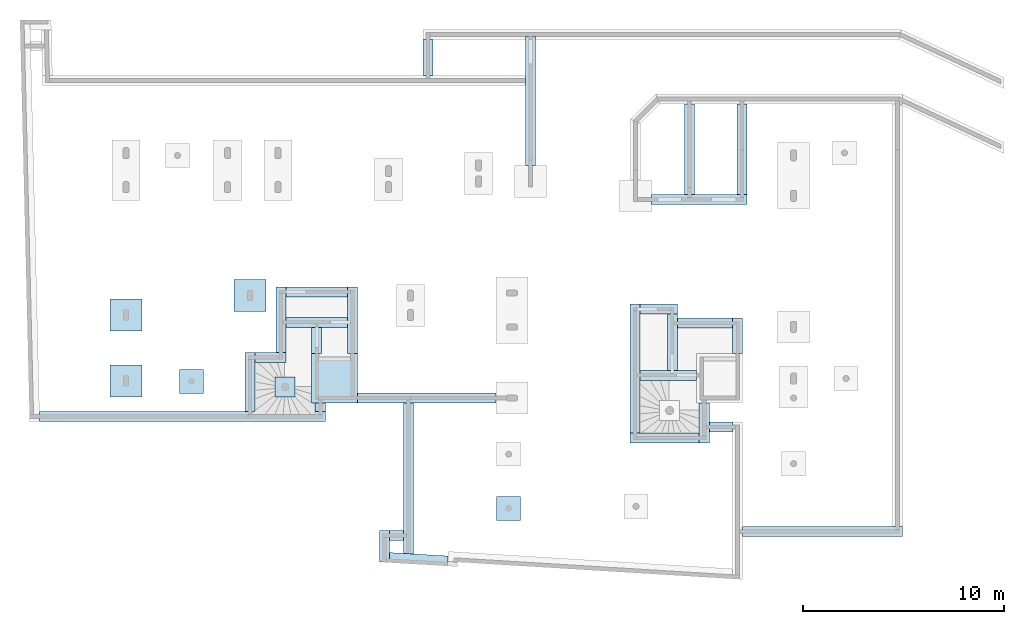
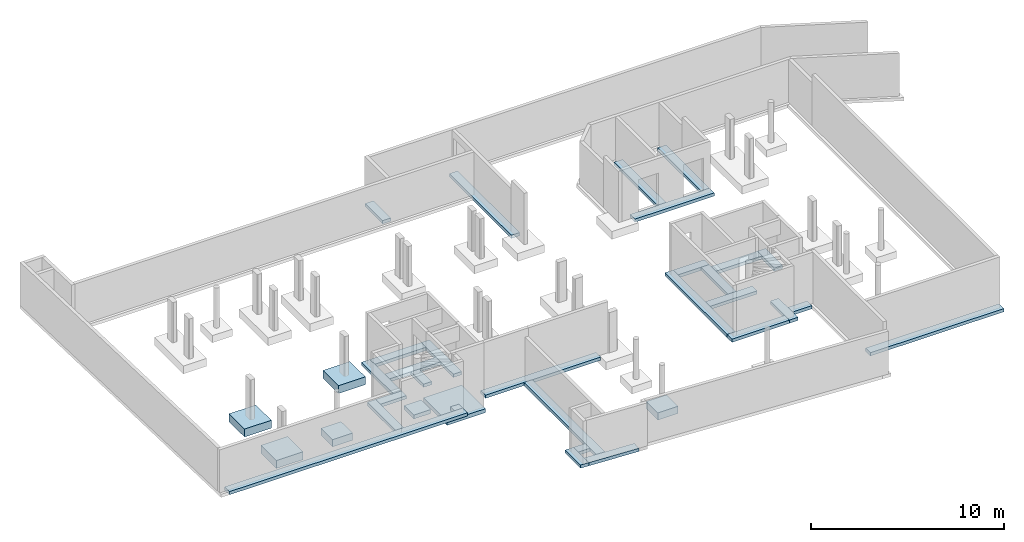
# One storey, part 1 of 6: 36 footings.
"""IFC2X3 building model written with IfcOpenShell, lengths in millimetres."""

from ifc_helpers import new_model, entity, si_unit, converted_unit, frame, frame_2d, origin, origin_with_axes, place, context, subcontext, project, spatial, rectangle, extrude, faceted_brep, material, element, save


model = new_model("IFC2X3")

# Units and contexts
model_context = context("Model", 3, precision=1e-05, world=origin())
body_context = subcontext(model_context, "Body", "Model", "MODEL_VIEW")
ifc_project = project(units=[si_unit("LENGTHUNIT", "METRE", prefix="MILLI"), converted_unit("PLANEANGLEUNIT", "DEGREE", entity("IfcPlaneAngleMeasure", 0.0174532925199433), si_unit("PLANEANGLEUNIT", "RADIAN"), dimensions=[0, 0, 0, 0, 0, 0, 0]), si_unit("AREAUNIT", "SQUARE_METRE"), si_unit("VOLUMEUNIT", "CUBIC_METRE")], contexts=[model_context])

# Site, building, storey
site_placement = place(None, origin())
site = spatial("IfcSite", under=ifc_project, at=site_placement, Name="Propriété", CompositionType="ELEMENT")
building_placement = place(site_placement, origin_with_axes())
building = spatial("IfcBuilding", under=site, at=building_placement, Name="Bâtiment", CompositionType="ELEMENT")
storey_placement = place(building_placement, frame((0.0, 0.0, -3300.0), z_axis=(0.0, 0.0, 1.0), x_axis=(1.0, 0.0, 0.0)))
storey = spatial("IfcBuildingStorey", under=building, at=storey_placement, Name="Sous-sol", CompositionType="ELEMENT", Elevation=-3300.0)

# Footings
ifc_material_1 = material(Name="<Unnamed Material>")
footing_1_placement = place(storey_placement, frame((-169.4222435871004, 4724.752767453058, -500.0100000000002), z_axis=(0.0, 0.0, 1.0), x_axis=(1.0, 0.0, 0.0)))
element("IfcFooting", 1, at=footing_1_placement, inside=storey, material=ifc_material_1, Name="<Unnamed Element>", PredefinedType="NOTDEFINED", context=body_context, shape_type="Brep", body=[
    faceted_brep([(0.009999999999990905, 1600.01, 0.01000000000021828), (0.009999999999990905, 0.01000000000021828, 0.01000000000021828), (1600.01, 0.01000000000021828, 0.01000000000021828), (1600.01, 1600.01, 0.01000000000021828), (0.009999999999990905, 0.01000000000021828, 500.0100000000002), (0.009999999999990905, 1600.01, 500.0100000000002), (1600.01, 1600.01, 500.0100000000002), (1600.01, 0.01000000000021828, 500.0100000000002), (0.009999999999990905, 0.01000000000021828, 0.01000000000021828), (0.009999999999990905, 1600.01, 0.01000000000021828), (0.009999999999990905, 1600.01, 500.0100000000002), (0.009999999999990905, 0.01000000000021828, 500.0100000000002), (1600.01, 0.01000000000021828, 0.01000000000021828), (0.009999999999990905, 0.01000000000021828, 0.01000000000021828), (0.009999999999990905, 0.01000000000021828, 500.0100000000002), (1600.01, 0.01000000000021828, 500.0100000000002), (1600.01, 1600.01, 0.01000000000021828), (1600.01, 0.01000000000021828, 0.01000000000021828), (1600.01, 0.01000000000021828, 500.0100000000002), (1600.01, 1600.01, 500.0100000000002), (0.009999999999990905, 1600.01, 0.01000000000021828), (1600.01, 1600.01, 0.01000000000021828), (1600.01, 1600.01, 500.0100000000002), (0.009999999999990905, 1600.01, 500.0100000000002)], [[[0, 1, 2, 3]], [[4, 5, 6, 7]], [[8, 9, 10, 11]], [[12, 13, 14, 15]], [[16, 17, 18, 19]], [[20, 21, 22, 23]]], orient=[[False], [False], [False], [False], [False], [False]]),
])
ifc_material_2 = material(Name="<Unnamed Material>")
footing_2_placement = place(storey_placement, frame((-169.4222435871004, 1439.419874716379, -500.0100000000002), z_axis=(0.0, 0.0, 1.0), x_axis=(1.0, 0.0, 0.0)))
element("IfcFooting", 2, at=footing_2_placement, inside=storey, material=ifc_material_2, Name="<Unnamed Element>", PredefinedType="NOTDEFINED", context=body_context, shape_type="Brep", body=[
    faceted_brep([(0.009999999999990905, 1600.01, 0.01000000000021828), (0.009999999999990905, 0.009999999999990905, 0.01000000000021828), (1600.01, 0.009999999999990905, 0.01000000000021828), (1600.01, 1600.01, 0.01000000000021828), (0.009999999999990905, 0.009999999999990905, 500.0100000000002), (0.009999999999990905, 1600.01, 500.0100000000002), (1600.01, 1600.01, 500.0100000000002), (1600.01, 0.009999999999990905, 500.0100000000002), (0.009999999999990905, 0.009999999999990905, 0.01000000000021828), (0.009999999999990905, 1600.01, 0.01000000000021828), (0.009999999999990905, 1600.01, 500.0100000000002), (0.009999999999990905, 0.009999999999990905, 500.0100000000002), (1600.01, 0.009999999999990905, 0.01000000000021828), (0.009999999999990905, 0.009999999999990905, 0.01000000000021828), (0.009999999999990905, 0.009999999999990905, 500.0100000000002), (1600.01, 0.009999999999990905, 500.0100000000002), (1600.01, 1600.01, 0.01000000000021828), (1600.01, 0.009999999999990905, 0.01000000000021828), (1600.01, 0.009999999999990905, 500.0100000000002), (1600.01, 1600.01, 500.0100000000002), (0.009999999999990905, 1600.01, 0.01000000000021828), (1600.01, 1600.01, 0.01000000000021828), (1600.01, 1600.01, 500.0100000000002), (0.009999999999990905, 1600.01, 500.0100000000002)], [[[0, 1, 2, 3]], [[4, 5, 6, 7]], [[8, 9, 10, 11]], [[12, 13, 14, 15]], [[16, 17, 18, 19]], [[20, 21, 22, 23]]], orient=[[False], [False], [False], [False], [False], [False]]),
])
ifc_material_3 = material(Name="<Unnamed Material>")
footing_3_placement = place(storey_placement, frame((6010.577756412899, 5687.13711771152, -500.0100000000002), z_axis=(0.0, 0.0, 1.0), x_axis=(1.0, 0.0, 0.0)))
element("IfcFooting", 3, at=footing_3_placement, inside=storey, material=ifc_material_3, Name="<Unnamed Element>", PredefinedType="NOTDEFINED", context=body_context, shape_type="Brep", body=[
    faceted_brep([(0.01000000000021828, 1600.01, 0.01000000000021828), (0.01000000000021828, 0.01000000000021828, 0.01000000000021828), (1600.01, 0.01000000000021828, 0.01000000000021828), (1600.01, 1600.01, 0.01000000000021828), (0.01000000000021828, 0.01000000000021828, 500.0100000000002), (0.01000000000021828, 1600.01, 500.0100000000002), (1600.01, 1600.01, 500.0100000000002), (1600.01, 0.01000000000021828, 500.0100000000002), (0.01000000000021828, 0.01000000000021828, 0.01000000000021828), (0.01000000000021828, 1600.01, 0.01000000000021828), (0.01000000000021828, 1600.01, 500.0100000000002), (0.01000000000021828, 0.01000000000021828, 500.0100000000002), (1600.01, 0.01000000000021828, 0.01000000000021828), (0.01000000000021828, 0.01000000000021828, 0.01000000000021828), (0.01000000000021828, 0.01000000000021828, 500.0100000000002), (1600.01, 0.01000000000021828, 500.0100000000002), (1600.01, 1600.01, 0.01000000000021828), (1600.01, 0.01000000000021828, 0.01000000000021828), (1600.01, 0.01000000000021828, 500.0100000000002), (1600.01, 1600.01, 500.0100000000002), (0.01000000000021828, 1600.01, 0.01000000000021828), (1600.01, 1600.01, 0.01000000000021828), (1600.01, 1600.01, 500.0100000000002), (0.01000000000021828, 1600.01, 500.0100000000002)], [[[0, 1, 2, 3]], [[4, 5, 6, 7]], [[8, 9, 10, 11]], [[12, 13, 14, 15]], [[16, 17, 18, 19]], [[20, 21, 22, 23]]], orient=[[False], [False], [False], [False], [False], [False]]),
])
ifc_material_4 = material(Name="<Unnamed Material>")
footing_4_placement = place(storey_placement, frame((19100.57775641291, -4715.58012528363, -450.0100000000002), z_axis=(0.0, 0.0, 1.0), x_axis=(1.0, 0.0, 0.0)))
element("IfcFooting", 4, at=footing_4_placement, inside=storey, material=ifc_material_4, Name="<Unnamed Element>", PredefinedType="NOTDEFINED", context=body_context, shape_type="Brep", body=[
    faceted_brep([(0.00999999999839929, 1200.01, 0.01000000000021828), (0.00999999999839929, 0.01000000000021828, 0.01000000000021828), (1200.009999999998, 0.01000000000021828, 0.01000000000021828), (1200.009999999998, 1200.01, 0.01000000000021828), (0.00999999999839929, 0.01000000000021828, 450.0100000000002), (0.00999999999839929, 1200.01, 450.0100000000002), (1200.009999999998, 1200.01, 450.0100000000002), (1200.009999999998, 0.01000000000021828, 450.0100000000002), (0.00999999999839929, 0.01000000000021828, 0.01000000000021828), (0.00999999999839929, 1200.01, 0.01000000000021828), (0.00999999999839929, 1200.01, 450.0100000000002), (0.00999999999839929, 0.01000000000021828, 450.0100000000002), (1200.009999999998, 0.01000000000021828, 0.01000000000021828), (0.00999999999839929, 0.01000000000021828, 0.01000000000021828), (0.00999999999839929, 0.01000000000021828, 450.0100000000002), (1200.009999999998, 0.01000000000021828, 450.0100000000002), (1200.009999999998, 1200.01, 0.01000000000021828), (1200.009999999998, 0.01000000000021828, 0.01000000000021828), (1200.009999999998, 0.01000000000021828, 450.0100000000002), (1200.009999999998, 1200.01, 450.0100000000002), (0.00999999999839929, 1200.01, 0.01000000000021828), (1200.009999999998, 1200.01, 0.01000000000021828), (1200.009999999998, 1200.01, 450.0100000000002), (0.00999999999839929, 1200.01, 450.0100000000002)], [[[0, 1, 2, 3]], [[4, 5, 6, 7]], [[8, 9, 10, 11]], [[12, 13, 14, 15]], [[16, 17, 18, 19]], [[20, 21, 22, 23]]], orient=[[False], [False], [False], [False], [False], [False]]),
])
ifc_material_5 = material(Name="<Unnamed Material>")
footing_5_placement = place(storey_placement, frame((3300.577756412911, 1614.419874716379, -450.0100000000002), z_axis=(0.0, 0.0, 1.0), x_axis=(1.0, 0.0, 0.0)))
element("IfcFooting", 5, at=footing_5_placement, inside=storey, material=ifc_material_5, Name="<Unnamed Element>", PredefinedType="NOTDEFINED", context=body_context, shape_type="Brep", body=[
    faceted_brep([(0.01000000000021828, 1200.01, 0.01000000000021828), (0.01000000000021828, 0.009999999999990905, 0.01000000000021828), (1200.01, 0.009999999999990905, 0.01000000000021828), (1200.01, 1200.01, 0.01000000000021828), (0.01000000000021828, 0.009999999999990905, 450.0100000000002), (0.01000000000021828, 1200.01, 450.0100000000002), (1200.01, 1200.01, 450.0100000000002), (1200.01, 0.009999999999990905, 450.0100000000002), (0.01000000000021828, 0.009999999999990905, 0.01000000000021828), (0.01000000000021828, 1200.01, 0.01000000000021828), (0.01000000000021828, 1200.01, 450.0100000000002), (0.01000000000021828, 0.009999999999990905, 450.0100000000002), (1200.01, 0.009999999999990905, 0.01000000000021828), (0.01000000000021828, 0.009999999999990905, 0.01000000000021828), (0.01000000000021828, 0.009999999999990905, 450.0100000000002), (1200.01, 0.009999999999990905, 450.0100000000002), (1200.01, 1200.01, 0.01000000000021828), (1200.01, 0.009999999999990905, 0.01000000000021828), (1200.01, 0.009999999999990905, 450.0100000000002), (1200.01, 1200.01, 450.0100000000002), (0.01000000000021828, 1200.01, 0.01000000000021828), (1200.01, 1200.01, 0.01000000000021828), (1200.01, 1200.01, 450.0100000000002), (0.01000000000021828, 1200.01, 450.0100000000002)], [[[0, 1, 2, 3]], [[4, 5, 6, 7]], [[8, 9, 10, 11]], [[12, 13, 14, 15]], [[16, 17, 18, 19]], [[20, 21, 22, 23]]], orient=[[False], [False], [False], [False], [False], [False]]),
])
ifc_material_6 = material(Name="<Unnamed Material>")
footing_6_placement = place(storey_placement, frame((8060.577756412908, 1438.278496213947, -250.0100000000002), z_axis=(0.0, 0.0, 1.0), x_axis=(1.0, 0.0, 0.0)))
element("IfcFooting", 6, at=footing_6_placement, inside=storey, material=ifc_material_6, Name="<Unnamed Element>", PredefinedType="NOTDEFINED", context=body_context, shape_type="Brep", body=[
    faceted_brep([(0.01000000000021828, 1000.01, 0.01000000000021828), (0.01000000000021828, 0.009999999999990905, 0.01000000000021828), (1000.01, 0.009999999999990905, 0.01000000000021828), (1000.01, 1000.01, 0.01000000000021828), (0.01000000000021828, 0.009999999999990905, 250.0100000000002), (0.01000000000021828, 1000.01, 250.0100000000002), (1000.01, 1000.01, 250.0100000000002), (1000.01, 0.009999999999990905, 250.0100000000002), (0.01000000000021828, 0.009999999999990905, 0.01000000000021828), (0.01000000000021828, 1000.01, 0.01000000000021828), (0.01000000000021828, 1000.01, 250.0100000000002), (0.01000000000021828, 0.009999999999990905, 250.0100000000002), (1000.01, 0.009999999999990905, 0.01000000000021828), (0.01000000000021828, 0.009999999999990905, 0.01000000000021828), (0.01000000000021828, 0.009999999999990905, 250.0100000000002), (1000.01, 0.009999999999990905, 250.0100000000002), (1000.01, 1000.01, 0.01000000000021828), (1000.01, 0.009999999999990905, 0.01000000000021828), (1000.01, 0.009999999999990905, 250.0100000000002), (1000.01, 1000.01, 250.0100000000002), (0.01000000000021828, 1000.01, 0.01000000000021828), (1000.01, 1000.01, 0.01000000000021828), (1000.01, 1000.01, 250.0100000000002), (0.01000000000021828, 1000.01, 250.0100000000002)], [[[0, 1, 2, 3]], [[4, 5, 6, 7]], [[8, 9, 10, 11]], [[12, 13, 14, 15]], [[16, 17, 18, 19]], [[20, 21, 22, 23]]], orient=[[False], [False], [False], [False], [False], [False]]),
])
ifc_material_7 = material(Name="<Unnamed Material>")
footing_7_placement = place(storey_placement, frame((12170.58775641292, 1134.429874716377, -200.0), z_axis=(0.0, 0.0, 1.0), x_axis=(1.0, 0.0, 0.0)))
element("IfcFooting", 7, at=footing_7_placement, inside=storey, material=ifc_material_7, Name="<Unnamed Element>", PredefinedType="STRIP_FOOTING", context=body_context, shape_type="SweptSolid", body=[
    extrude(rectangle(XDim=200.0, YDim=500.0, at=frame_2d((100.0, -250.0), x_axis=(1.0, 0.0))), frame((0.0, 0.0, 0.0), z_axis=(1.0, 0.0, 0.0), x_axis=(0.0, 0.0, 1.0)), (0.0, 0.0, 1.0), 6889.999999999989),
])
ifc_material_8 = material(Name="<Unnamed Material>")
footing_8_placement = place(storey_placement, frame((10570.58775641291, 724.4298747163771, -200.0), z_axis=(0.0, 0.0, 1.0), x_axis=(0.0, 0.9999999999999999, 0.0)))
element("IfcFooting", 8, at=footing_8_placement, inside=storey, material=ifc_material_8, Name="<Unnamed Element>", PredefinedType="STRIP_FOOTING", context=body_context, shape_type="SweptSolid", body=[
    extrude(rectangle(XDim=200.0, YDim=500.0, at=frame_2d((100.0, -250.0), x_axis=(1.0, 0.0))), frame((0.0, 0.0, 0.0), z_axis=(1.0, 0.0, 0.0), x_axis=(0.0, 0.0, 1.0)), (0.0, 0.0, 1.0), 409.9999999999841),
])
ifc_material_9 = material(Name="<Unnamed Material>")
footing_9_placement = place(storey_placement, frame((20550.58775641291, 19399.76597325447, -200.0), z_axis=(0.0, 0.0, 1.0), x_axis=(0.0, -1.0, 0.0)))
element("IfcFooting", 9, at=footing_9_placement, inside=storey, material=ifc_material_9, Name="<Unnamed Element>", PredefinedType="STRIP_FOOTING", context=body_context, shape_type="SweptSolid", body=[
    extrude(rectangle(XDim=200.0, YDim=500.0, at=frame_2d((100.0, -250.0), x_axis=(1.0, 0.0))), frame((0.0, 0.0, 0.0), z_axis=(1.0, 0.0, 0.0), x_axis=(0.0, 0.0, 1.0)), (0.0, 0.0, 1.0), 6425.126655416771),
])
ifc_material_10 = material(Name="<Unnamed Material>")
footing_10_placement = place(storey_placement, frame((15930.58775641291, 17449.63931783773, -200.0), z_axis=(0.0, 0.0, 1.0), x_axis=(0.0, 0.9999999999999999, 0.0)))
element("IfcFooting", 10, at=footing_10_placement, inside=storey, material=ifc_material_10, Name="<Unnamed Element>", PredefinedType="STRIP_FOOTING", context=body_context, shape_type="SweptSolid", body=[
    extrude(rectangle(XDim=200.0, YDim=500.0, at=frame_2d((100.0, -250.0), x_axis=(1.0, 0.0))), frame((0.0, 0.0, 0.0), z_axis=(1.0, 0.0, 0.0), x_axis=(0.0, 0.0, 1.0)), (0.0, 0.0, 1.0), 1800.000001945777),
])
ifc_material_11 = material(Name="<Unnamed Material>")
footing_11_placement = place(storey_placement, frame((29700.58775641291, -865.5701252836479, -200.0), z_axis=(0.0, 0.0, 1.0), x_axis=(0.0, 1.0, 0.0)))
element("IfcFooting", 11, at=footing_11_placement, inside=storey, material=ifc_material_11, Name="<Unnamed Element>", PredefinedType="STRIP_FOOTING", context=body_context, shape_type="SweptSolid", body=[
    extrude(rectangle(XDim=200.0, YDim=500.0, at=frame_2d((100.0, -250.0), x_axis=(1.0, 0.0))), frame((0.0, 0.0, 0.0), z_axis=(1.0, 0.0, 0.0), x_axis=(0.0, 0.0, 1.0)), (0.0, 0.0, 1.0), 1999.999999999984),
])
ifc_material_12 = material(Name="<Unnamed Material>")
footing_12_placement = place(storey_placement, frame((-3666.99870436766, 224.4298747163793, -200.0), z_axis=(0.0, 0.0, 1.0), x_axis=(1.0, -1.517146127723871e-16, 0.0)))
element("IfcFooting", 12, at=footing_12_placement, inside=storey, material=ifc_material_12, Name="<Unnamed Element>", PredefinedType="STRIP_FOOTING", context=body_context, shape_type="Brep", body=[
    faceted_brep([(-12.09316018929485, 500.0, 0.0), (0.0, 0.0, 0.0), (14237.58646078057, 0.0, 0.0), (14237.58646078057, 500.0, 0.0), (0.0, 0.0, 200.0), (-12.09316018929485, 500.0, 200.0), (14237.58646078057, 500.0, 200.0), (14237.58646078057, 0.0, 200.0), (0.0, 0.0, 0.0), (-12.09316018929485, 500.0, 0.0), (-12.09316018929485, 500.0, 200.0), (0.0, 0.0, 200.0), (14237.58646078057, 0.0, 0.0), (0.0, 0.0, 0.0), (0.0, 0.0, 200.0), (14237.58646078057, 0.0, 200.0), (14237.58646078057, 500.0, 0.0), (14237.58646078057, 0.0, 0.0), (14237.58646078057, 0.0, 200.0), (14237.58646078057, 500.0, 200.0), (-12.09316018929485, 500.0, 0.0), (14237.58646078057, 500.0, 0.0), (14237.58646078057, 500.0, 200.0), (-12.09316018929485, 500.0, 200.0)], [[[0, 1, 2, 3]], [[4, 5, 6, 7]], [[8, 9, 10, 11]], [[12, 13, 14, 15]], [[16, 17, 18, 19]], [[20, 21, 22, 23]]], orient=[[False], [False], [False], [False], [False], [False]]),
])
ifc_material_13 = material(Name="<Unnamed Material>")
footing_13_placement = place(storey_placement, frame((7050.58775641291, 724.4298747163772, -200.0), z_axis=(0.0, 0.0, 1.0), x_axis=(3.106497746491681e-15, 1.0, 0.0)))
element("IfcFooting", 13, at=footing_13_placement, inside=storey, material=ifc_material_13, Name="<Unnamed Element>", PredefinedType="STRIP_FOOTING", context=body_context, shape_type="SweptSolid", body=[
    extrude(rectangle(XDim=200.0, YDim=500.0, at=frame_2d((100.0, -250.0), x_axis=(1.0, 0.0))), frame((0.0, 0.0, 0.0), z_axis=(1.0, 0.0, 0.0), x_axis=(0.0, 0.0, 1.0)), (0.0, 0.0, 1.0), 2927.717242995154),
])
ifc_material_14 = material(Name="<Unnamed Material>")
footing_14_placement = place(storey_placement, frame((7050.587756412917, 3152.147117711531, -200.0), z_axis=(0.0, 0.0, 1.0), x_axis=(1.0, -2.933853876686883e-15, 0.0)))
element("IfcFooting", 14, at=footing_14_placement, inside=storey, material=ifc_material_14, Name="<Unnamed Element>", PredefinedType="STRIP_FOOTING", context=body_context, shape_type="SweptSolid", body=[
    extrude(rectangle(XDim=200.0, YDim=500.0, at=frame_2d((100.0, -250.0), x_axis=(1.0, 0.0))), frame((0.0, 0.0, 0.0), z_axis=(1.0, 0.0, 0.0), x_axis=(0.0, 0.0, 1.0)), (0.0, 0.0, 1.0), 1549.999999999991),
])
ifc_material_15 = material(Name="<Unnamed Material>")
footing_15_placement = place(storey_placement, frame((9880.577756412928, 1134.419874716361, -1100.01), z_axis=(0.0, 0.0, 1.0), x_axis=(1.0, 0.0, 0.0)))
element("IfcFooting", 15, at=footing_15_placement, inside=storey, material=ifc_material_15, Name="<Unnamed Element>", PredefinedType="NOTDEFINED", context=body_context, shape_type="Brep", body=[
    faceted_brep([(0.00999999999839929, 2464.451494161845, 0.01000000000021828), (0.00999999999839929, 0.009999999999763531, 0.01000000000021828), (2290.009999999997, 0.009999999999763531, 0.01000000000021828), (2290.009999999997, 2464.451494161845, 0.01000000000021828), (0.00999999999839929, 0.009999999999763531, 250.0100000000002), (0.00999999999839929, 2464.451494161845, 250.0100000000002), (2290.009999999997, 2464.451494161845, 250.0100000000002), (2290.009999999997, 0.009999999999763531, 250.0100000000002), (0.00999999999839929, 0.009999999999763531, 0.01000000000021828), (0.00999999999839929, 2464.451494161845, 0.01000000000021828), (0.00999999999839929, 2464.451494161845, 250.0100000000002), (0.00999999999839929, 0.009999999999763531, 250.0100000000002), (2290.009999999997, 0.009999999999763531, 0.01000000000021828), (0.00999999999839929, 0.009999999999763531, 0.01000000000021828), (0.00999999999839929, 0.009999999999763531, 250.0100000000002), (2290.009999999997, 0.009999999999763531, 250.0100000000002), (2290.009999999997, 2464.451494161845, 0.01000000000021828), (2290.009999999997, 0.009999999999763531, 0.01000000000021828), (2290.009999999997, 0.009999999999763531, 250.0100000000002), (2290.009999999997, 2464.451494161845, 250.0100000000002), (0.00999999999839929, 2464.451494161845, 0.01000000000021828), (2290.009999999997, 2464.451494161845, 0.01000000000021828), (2290.009999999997, 2464.451494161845, 250.0100000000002), (0.00999999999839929, 2464.451494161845, 250.0100000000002)], [[[0, 1, 2, 3]], [[4, 5, 6, 7]], [[8, 9, 10, 11]], [[12, 13, 14, 15]], [[16, 17, 18, 19]], [[20, 21, 22, 23]]], orient=[[False], [False], [False], [False], [False], [False]]),
])
ifc_material_16 = material(Name="<Unnamed Material>")
footing_16_placement = place(storey_placement, frame((11670.58775641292, 6922.14711771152, -200.0), z_axis=(0.0, 0.0, 1.0), x_axis=(-1.0, 0.0, 0.0)))
element("IfcFooting", 16, at=footing_16_placement, inside=storey, material=ifc_material_16, Name="<Unnamed Element>", PredefinedType="STRIP_FOOTING", context=body_context, shape_type="SweptSolid", body=[
    extrude(rectangle(XDim=200.0, YDim=500.0, at=frame_2d((100.0, -250.0), x_axis=(1.0, 0.0))), frame((0.0, 0.0, 0.0), z_axis=(1.0, 0.0, 0.0), x_axis=(0.0, 0.0, 1.0)), (0.0, 0.0, 1.0), 3070.000000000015),
])
ifc_material_17 = material(Name="<Unnamed Material>")
footing_17_placement = place(storey_placement, frame((10380.5877564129, 3598.871368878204, -200.0), z_axis=(0.0, 0.0, 1.0), x_axis=(5.582822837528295e-15, 1.0, 0.0)))
element("IfcFooting", 17, at=footing_17_placement, inside=storey, material=ifc_material_17, Name="<Unnamed Element>", PredefinedType="STRIP_FOOTING", context=body_context, shape_type="SweptSolid", body=[
    extrude(rectangle(XDim=200.0, YDim=500.0, at=frame_2d((100.0, -250.0), x_axis=(1.0, 0.0))), frame((0.0, 0.0, 0.0), z_axis=(1.0, 0.0, 0.0), x_axis=(0.0, 0.0, 1.0)), (0.0, 0.0, 1.0), 1303.275748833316),
])
ifc_material_18 = material(Name="<Unnamed Material>")
footing_18_placement = place(storey_placement, frame((8600.587756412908, 4902.14711771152, -200.0), z_axis=(0.0, 0.0, 1.0), x_axis=(1.0, 0.0, 0.0)))
element("IfcFooting", 18, at=footing_18_placement, inside=storey, material=ifc_material_18, Name="<Unnamed Element>", PredefinedType="STRIP_FOOTING", context=body_context, shape_type="SweptSolid", body=[
    extrude(rectangle(XDim=200.0, YDim=500.0, at=frame_2d((100.0, -250.0), x_axis=(1.0, 0.0))), frame((0.0, 0.0, 0.0), z_axis=(1.0, 0.0, 0.0), x_axis=(0.0, 0.0, 1.0)), (0.0, 0.0, 1.0), 3070.000000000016),
])
ifc_material_19 = material(Name="<Unnamed Material>")
footing_19_placement = place(storey_placement, frame((8600.587756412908, 3652.147117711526, -200.0), z_axis=(0.0, 0.0, 1.0), x_axis=(0.0, 0.9999999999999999, 0.0)))
element("IfcFooting", 19, at=footing_19_placement, inside=storey, material=ifc_material_19, Name="<Unnamed Element>", PredefinedType="STRIP_FOOTING", context=body_context, shape_type="SweptSolid", body=[
    extrude(rectangle(XDim=200.0, YDim=500.0, at=frame_2d((100.0, -250.0), x_axis=(1.0, 0.0))), frame((0.0, 0.0, 0.0), z_axis=(1.0, 0.0, 0.0), x_axis=(0.0, 0.0, 1.0)), (0.0, 0.0, 1.0), 3269.999999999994),
])
ifc_material_20 = material(Name="<Unnamed Material>")
footing_20_placement = place(storey_placement, frame((12170.58775641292, 3598.871368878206, -200.0), z_axis=(0.0, 0.0, 1.0), x_axis=(-5.473483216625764e-16, 1.0, 0.0)))
element("IfcFooting", 20, at=footing_20_placement, inside=storey, material=ifc_material_20, Name="<Unnamed Element>", PredefinedType="STRIP_FOOTING", context=body_context, shape_type="SweptSolid", body=[
    extrude(rectangle(XDim=200.0, YDim=499.9999999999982, at=frame_2d((100.0, -249.9999999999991), x_axis=(1.0, 0.0))), frame((0.0, 0.0, 0.0), z_axis=(1.0, 0.0, 0.0), x_axis=(0.0, 0.0, 1.0)), (0.0, 0.0, 1.0), 3323.275748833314),
])
ifc_material_21 = material(Name="<Unnamed Material>")
footing_21_placement = place(storey_placement, frame((31360.58775641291, 3598.871368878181, -200.0), z_axis=(0.0, 0.0, 1.0), x_axis=(0.0, 1.0, 0.0)))
element("IfcFooting", 21, at=footing_21_placement, inside=storey, material=ifc_material_21, Name="<Unnamed Element>", PredefinedType="STRIP_FOOTING", context=body_context, shape_type="SweptSolid", body=[
    extrude(rectangle(XDim=200.0, YDim=500.0, at=frame_2d((100.0, -250.0), x_axis=(1.0, 0.0))), frame((0.0, 0.0, 0.0), z_axis=(1.0, 0.0, 0.0), x_axis=(0.0, 0.0, 1.0)), (0.0, 0.0, 1.0), 1765.558505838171),
])
ifc_material_22 = material(Name="<Unnamed Material>")
footing_22_placement = place(storey_placement, frame((29700.58775641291, -315.5701252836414, -200.0), z_axis=(0.0, 0.0, 1.0), x_axis=(1.0, -1.334584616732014e-15, 0.0)))
element("IfcFooting", 22, at=footing_22_placement, inside=storey, material=ifc_material_22, Name="<Unnamed Element>", PredefinedType="STRIP_FOOTING", context=body_context, shape_type="SweptSolid", body=[
    extrude(rectangle(XDim=200.0, YDim=500.0, at=frame_2d((100.0, -250.0), x_axis=(1.0, 0.0))), frame((0.0, 0.0, 0.0), z_axis=(1.0, 0.0, 0.0), x_axis=(0.0, 0.0, 1.0)), (0.0, 0.0, 1.0), 1150.0),
])
ifc_material_23 = material(Name="<Unnamed Material>")
footing_23_placement = place(storey_placement, frame((31350.58775641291, -5515.570125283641, -200.0), z_axis=(0.0, 0.0, 1.0), x_axis=(0.9999999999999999, 0.0, 0.0)))
element("IfcFooting", 23, at=footing_23_placement, inside=storey, material=ifc_material_23, Name="<Unnamed Element>", PredefinedType="STRIP_FOOTING", context=body_context, shape_type="SweptSolid", body=[
    extrude(rectangle(XDim=200.0, YDim=500.0, at=frame_2d((100.0, -250.0), x_axis=(1.0, 0.0))), frame((0.0, 0.0, 0.0), z_axis=(1.0, 0.0, 0.0), x_axis=(0.0, 0.0, 1.0)), (0.0, 0.0, 1.0), 7990.0),
])
ifc_material_24 = material(Name="<Unnamed Material>")
footing_24_placement = place(storey_placement, frame((14470.58775641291, 1134.429874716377, -200.0), z_axis=(0.0, 0.0, 1.0), x_axis=(0.0, -0.9999999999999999, 0.0)))
element("IfcFooting", 24, at=footing_24_placement, inside=storey, material=ifc_material_24, Name="<Unnamed Element>", PredefinedType="STRIP_FOOTING", context=body_context, shape_type="Brep", body=[
    faceted_brep([(0.0, 500.0, 0.0), (0.0, 0.0, 0.0), (7492.88432752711, 0.0, 0.0), (7522.155903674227, 500.0, 0.0), (0.0, 0.0, 200.0), (0.0, 500.0, 200.0), (7522.155903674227, 500.0, 200.0), (7492.88432752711, 0.0, 200.0), (0.0, 0.0, 0.0), (0.0, 500.0, 0.0), (0.0, 500.0, 200.0), (0.0, 0.0, 200.0), (7492.88432752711, 0.0, 0.0), (0.0, 0.0, 0.0), (0.0, 0.0, 200.0), (7492.88432752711, 0.0, 200.0), (7522.155903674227, 500.0, 0.0), (7492.88432752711, 0.0, 0.0), (7492.88432752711, 0.0, 200.0), (7522.155903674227, 500.0, 200.0), (0.0, 500.0, 0.0), (7522.155903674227, 500.0, 0.0), (7522.155903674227, 500.0, 200.0), (0.0, 500.0, 200.0)], [[[0, 1, 2, 3]], [[4, 5, 6, 7]], [[8, 9, 10, 11]], [[12, 13, 14, 15]], [[16, 17, 18, 19]], [[20, 21, 22, 23]]], orient=[[False], [False], [False], [False], [False], [False]]),
])
ifc_material_25 = material(Name="<Unnamed Material>")
footing_25_placement = place(storey_placement, frame((13270.58775641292, -5217.749581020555, -200.0), z_axis=(0.0, 0.0, 1.0), x_axis=(-4.630506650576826e-15, -1.0, 0.0)))
element("IfcFooting", 25, at=footing_25_placement, inside=storey, material=ifc_material_25, Name="<Unnamed Element>", PredefinedType="STRIP_FOOTING", context=body_context, shape_type="Brep", body=[
    faceted_brep([(-1.818989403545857e-12, 500.0, 0.0), (0.0, 0.0, 0.0), (1571.309181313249, 0.0, 0.0), (1600.580757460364, 500.0, 0.0), (0.0, 0.0, 200.0), (-1.818989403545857e-12, 500.0, 200.0), (1600.580757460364, 500.0, 200.0), (1571.309181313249, 0.0, 200.0), (0.0, 0.0, 0.0), (-1.818989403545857e-12, 500.0, 0.0), (-1.818989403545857e-12, 500.0, 200.0), (0.0, 0.0, 200.0), (1571.309181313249, 0.0, 0.0), (0.0, 0.0, 0.0), (0.0, 0.0, 200.0), (1571.309181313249, 0.0, 200.0), (1600.580757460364, 500.0, 0.0), (1571.309181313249, 0.0, 0.0), (1571.309181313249, 0.0, 200.0), (1600.580757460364, 500.0, 200.0), (-1.818989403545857e-12, 500.0, 0.0), (1600.580757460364, 500.0, 0.0), (1600.580757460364, 500.0, 200.0), (-1.818989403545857e-12, 500.0, 200.0)], [[[0, 1, 2, 3]], [[4, 5, 6, 7]], [[8, 9, 10, 11]], [[12, 13, 14, 15]], [[16, 17, 18, 19]], [[20, 21, 22, 23]]], orient=[[False], [False], [False], [False], [False], [False]]),
])
ifc_material_26 = material(Name="<Unnamed Material>")
footing_26_placement = place(storey_placement, frame((14470.58775641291, -5217.749581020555, -200.0), z_axis=(0.0, 0.0, 1.0), x_axis=(-0.9999999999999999, 0.0, 0.0)))
element("IfcFooting", 26, at=footing_26_placement, inside=storey, material=ifc_material_26, Name="<Unnamed Element>", PredefinedType="STRIP_FOOTING", context=body_context, shape_type="SweptSolid", body=[
    extrude(rectangle(XDim=200.0, YDim=500.0, at=frame_2d((100.0, -250.0), x_axis=(1.0, 0.0))), frame((0.0, 0.0, 0.0), z_axis=(1.0, 0.0, 0.0), x_axis=(0.0, 0.0, 1.0)), (0.0, 0.0, 1.0), 699.9999999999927),
])
ifc_material_27 = material(Name="<Unnamed Material>")
footing_27_placement = place(storey_placement, frame((13770.58775641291, -6818.330338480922, -200.0), z_axis=(0.0, 0.0, 1.0), x_axis=(0.9982907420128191, -0.05844308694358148, 0.0)))
element("IfcFooting", 27, at=footing_27_placement, inside=storey, material=ifc_material_27, Name="<Unnamed Element>", PredefinedType="STRIP_FOOTING", context=body_context, shape_type="Brep", body=[
    faceted_brep([(-29.27157614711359, 500.0, 0.0), (0.0, 0.0, 0.0), (2885.230245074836, 0.0, 0.0), (2885.230245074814, 500.0, 0.0), (0.0, 0.0, 200.0), (-29.27157614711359, 500.0, 200.0), (2885.230245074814, 500.0, 200.0), (2885.230245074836, 0.0, 200.0), (0.0, 0.0, 0.0), (-29.27157614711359, 500.0, 0.0), (-29.27157614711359, 500.0, 200.0), (0.0, 0.0, 200.0), (2885.230245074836, 0.0, 0.0), (0.0, 0.0, 0.0), (0.0, 0.0, 200.0), (2885.230245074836, 0.0, 200.0), (2885.230245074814, 500.0, 0.0), (2885.230245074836, 0.0, 0.0), (2885.230245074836, 0.0, 200.0), (2885.230245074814, 500.0, 200.0), (-29.27157614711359, 500.0, 0.0), (2885.230245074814, 500.0, 0.0), (2885.230245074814, 500.0, 200.0), (-29.27157614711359, 500.0, 200.0)], [[[0, 1, 2, 3]], [[4, 5, 6, 7]], [[8, 9, 10, 11]], [[12, 13, 14, 15]], [[16, 17, 18, 19]], [[20, 21, 22, 23]]], orient=[[False], [False], [False], [False], [False], [False]]),
])
ifc_material_28 = material(Name="<Unnamed Material>")
footing_28_placement = place(storey_placement, frame((31570.58775641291, 11534.42987471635, -200.0), z_axis=(0.0, 0.0, 1.0), x_axis=(0.0, 1.0, 0.0)))
element("IfcFooting", 28, at=footing_28_placement, inside=storey, material=ifc_material_28, Name="<Unnamed Element>", PredefinedType="STRIP_FOOTING", context=body_context, shape_type="SweptSolid", body=[
    extrude(rectangle(XDim=200.0, YDim=500.0, at=frame_2d((100.0, -250.0), x_axis=(1.0, 0.0))), frame((0.0, 0.0, 0.0), z_axis=(1.0, 0.0, 0.0), x_axis=(0.0, 0.0, 1.0)), (0.0, 0.0, 1.0), 4500.000000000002),
])
ifc_material_29 = material(Name="<Unnamed Material>")
footing_29_placement = place(storey_placement, frame((26820.58775641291, 11034.42987471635, -200.0), z_axis=(0.0, 0.0, 1.0), x_axis=(1.0, 0.0, 0.0)))
element("IfcFooting", 29, at=footing_29_placement, inside=storey, material=ifc_material_29, Name="<Unnamed Element>", PredefinedType="STRIP_FOOTING", context=body_context, shape_type="SweptSolid", body=[
    extrude(rectangle(XDim=200.0, YDim=500.0, at=frame_2d((100.0, -250.0), x_axis=(1.0, 0.0))), frame((0.0, 0.0, 0.0), z_axis=(1.0, 0.0, 0.0), x_axis=(0.0, 0.0, 1.0)), (0.0, 0.0, 1.0), 4750.0),
])
ifc_material_30 = material(Name="<Unnamed Material>")
footing_30_placement = place(storey_placement, frame((28970.58775641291, 11534.42987471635, -200.0), z_axis=(0.0, 0.0, 1.0), x_axis=(0.0, 1.0, 0.0)))
element("IfcFooting", 30, at=footing_30_placement, inside=storey, material=ifc_material_30, Name="<Unnamed Element>", PredefinedType="STRIP_FOOTING", context=body_context, shape_type="SweptSolid", body=[
    extrude(rectangle(XDim=200.0, YDim=500.0, at=frame_2d((100.0, -250.0), x_axis=(1.0, 0.0))), frame((0.0, 0.0, 0.0), z_axis=(1.0, 0.0, 0.0), x_axis=(0.0, 0.0, 1.0)), (0.0, 0.0, 1.0), 4500.000000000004),
])
ifc_material_31 = material(Name="<Unnamed Material>")
footing_31_placement = place(storey_placement, frame((29070.58775641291, 2764.429874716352, -200.0), z_axis=(0.0, 0.0, 1.0), x_axis=(-1.0, 0.0, 0.0)))
element("IfcFooting", 31, at=footing_31_placement, inside=storey, material=ifc_material_31, Name="<Unnamed Element>", PredefinedType="STRIP_FOOTING", context=body_context, shape_type="SweptSolid", body=[
    extrude(rectangle(XDim=200.0, YDim=500.0, at=frame_2d((100.0, -250.0), x_axis=(1.0, 0.0))), frame((0.0, 0.0, 0.0), z_axis=(1.0, 0.0, 0.0), x_axis=(0.0, 0.0, 1.0)), (0.0, 0.0, 1.0), 2820.0),
])
ifc_material_32 = material(Name="<Unnamed Material>")
footing_32_placement = place(storey_placement, frame((25750.58775641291, 6064.429874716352, -200.0), z_axis=(0.0, 0.0, 1.0), x_axis=(0.0, -0.9999999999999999, 0.0)))
element("IfcFooting", 32, at=footing_32_placement, inside=storey, material=ifc_material_32, Name="<Unnamed Element>", PredefinedType="STRIP_FOOTING", context=body_context, shape_type="SweptSolid", body=[
    extrude(rectangle(XDim=200.0, YDim=500.0, at=frame_2d((100.0, -250.0), x_axis=(1.0, 0.0))), frame((0.0, 0.0, 0.0), z_axis=(1.0, 0.0, 0.0), x_axis=(0.0, 0.0, 1.0)), (0.0, 0.0, 1.0), 6430.0),
])
ifc_material_33 = material(Name="<Unnamed Material>")
footing_33_placement = place(storey_placement, frame((28110.58775641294, 2764.429874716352, -200.0), z_axis=(0.0, 0.0, 1.0), x_axis=(-1.039422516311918e-14, 1.0, 0.0)))
element("IfcFooting", 33, at=footing_33_placement, inside=storey, material=ifc_material_33, Name="<Unnamed Element>", PredefinedType="STRIP_FOOTING", context=body_context, shape_type="SweptSolid", body=[
    extrude(rectangle(XDim=200.0, YDim=500.0, at=frame_2d((100.0, -250.0), x_axis=(1.0, 0.0))), frame((0.0, 0.0, 0.0), z_axis=(1.0, 0.0, 0.0), x_axis=(0.0, 0.0, 1.0)), (0.0, 0.0, 1.0), 2800.0),
])
ifc_material_34 = material(Name="<Unnamed Material>")
footing_34_placement = place(storey_placement, frame((28110.58775641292, 4864.429874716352, -200.0), z_axis=(0.0, 0.0, 1.0), x_axis=(1.0, 0.0, 0.0)))
element("IfcFooting", 34, at=footing_34_placement, inside=storey, material=ifc_material_34, Name="<Unnamed Element>", PredefinedType="STRIP_FOOTING", context=body_context, shape_type="SweptSolid", body=[
    extrude(rectangle(XDim=200.0, YDim=500.0, at=frame_2d((100.0, -250.0), x_axis=(1.0, 0.0))), frame((0.0, 0.0, 0.0), z_axis=(1.0, 0.0, 0.0), x_axis=(0.0, 0.0, 1.0)), (0.0, 0.0, 1.0), 2749.999999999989),
])
ifc_material_35 = material(Name="<Unnamed Material>")
footing_35_placement = place(storey_placement, frame((28110.58775641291, 6064.429874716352, -200.0), z_axis=(0.0, 0.0, 1.0), x_axis=(-1.0, 0.0, 0.0)))
element("IfcFooting", 35, at=footing_35_placement, inside=storey, material=ifc_material_35, Name="<Unnamed Element>", PredefinedType="STRIP_FOOTING", context=body_context, shape_type="SweptSolid", body=[
    extrude(rectangle(XDim=200.0, YDim=500.0, at=frame_2d((100.0, -250.0), x_axis=(1.0, 0.0))), frame((0.0, 0.0, 0.0), z_axis=(1.0, 0.0, 0.0), x_axis=(0.0, 0.0, 1.0)), (0.0, 0.0, 1.0), 1859.999999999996),
])
ifc_material_36 = material(Name="<Unnamed Material>")
footing_36_placement = place(storey_placement, frame((25750.58775641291, -865.5701252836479, -200.0), z_axis=(0.0, 0.0, 1.0), x_axis=(1.0, 0.0, 0.0)))
element("IfcFooting", 36, at=footing_36_placement, inside=storey, material=ifc_material_36, Name="<Unnamed Element>", PredefinedType="STRIP_FOOTING", context=body_context, shape_type="SweptSolid", body=[
    extrude(rectangle(XDim=200.0, YDim=500.0, at=frame_2d((100.0, -250.0), x_axis=(1.0, 0.0))), frame((0.0, 0.0, 0.0), z_axis=(1.0, 0.0, 0.0), x_axis=(0.0, 0.0, 1.0)), (0.0, 0.0, 1.0), 3450.0),
])

save(model, "model.ifc")
